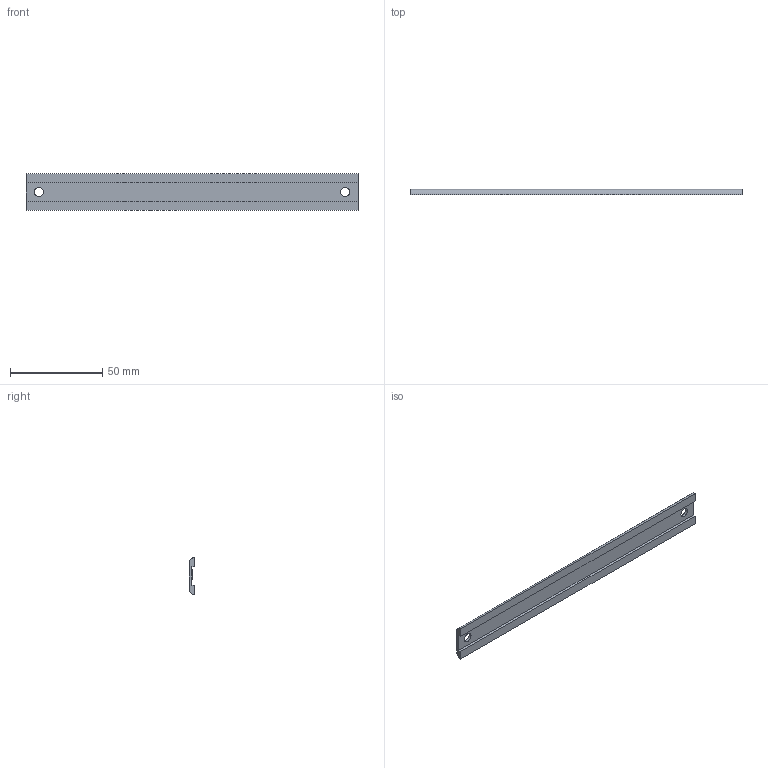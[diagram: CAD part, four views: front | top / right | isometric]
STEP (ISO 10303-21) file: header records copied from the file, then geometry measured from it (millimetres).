
FILE_DESCRIPTION (( 'STEP AP203' ), '1' );
FILE_NAME ('Ñîåäèíèòåëü ìîäåëü N10.STEP', '2025-08-23T18:49:40', ( '' ), ( '' ), 'SwSTEP 2.0', 'SolidWorks 2024', '' );
FILE_SCHEMA (( 'CONFIG_CONTROL_DESIGN' ));
Length unit declared in the file: millimetre
Products named in the file (1): Соединитель модель N10
Bounding box: 180 x 3 x 20 mm (x, y, z)
Volume: 7345.8 mm3; surface area: 8407.3 mm2
Topology: 1 solids, 1 shells, 16 faces, 42 edges, 28 vertices
Faces by surface type: plane 10, cylinder 6
Entity records: 583 total; most frequent: DIRECTION 88, CARTESIAN_POINT 87, ORIENTED_EDGE 84, EDGE_CURVE 42, VECTOR 30, LINE 30, AXIS2_PLACEMENT_3D 29, VERTEX_POINT 28
